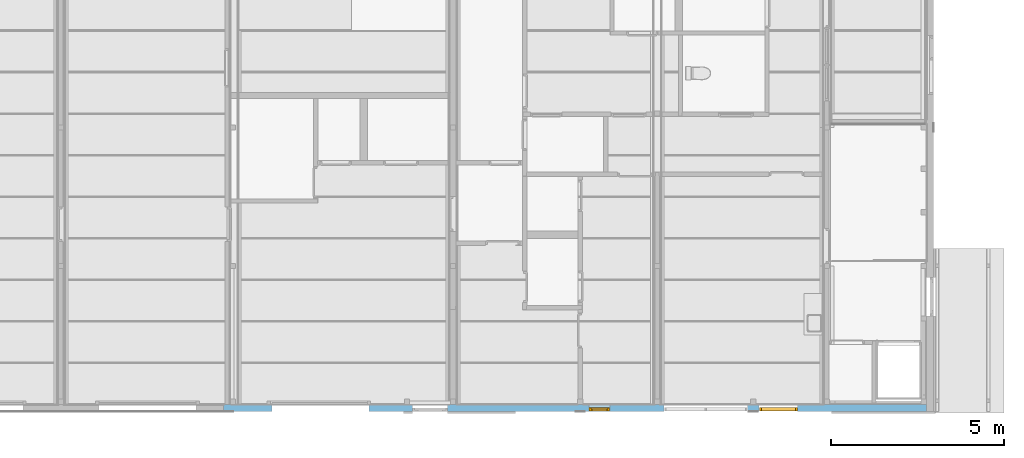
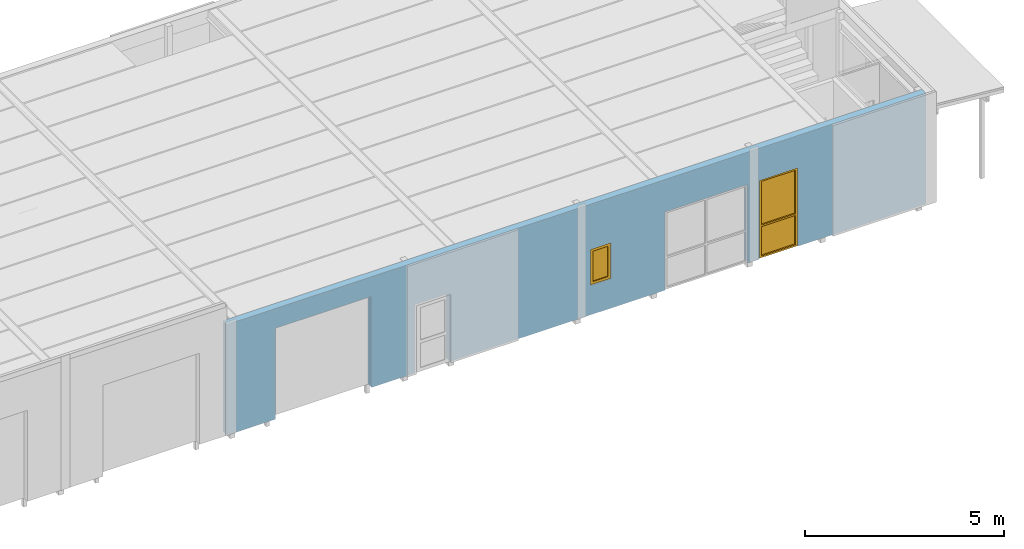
# One storey, part 24 of 45: 2 windows, 5 openings, plus 1 element that does not belong to this part.
"""IFC2X3 building model written with IfcOpenShell, lengths in millimetres."""

from ifc_helpers import new_model, entity, si_unit, converted_unit, frame, frame_2d, origin, origin_with_axes, place, context, subcontext, project, spatial, rectangle, extrude, faceted_brep, material, layer, layer_set, layer_usage, type_object, element, fill, save


model = new_model("IFC2X3")

# Units and contexts
model_context = context("Model", 3, precision=1e-05, world=origin())
plan_context = context("Plan", 3, precision=1e-05, world=origin())
body_context = subcontext(model_context, "Body", "Model", "MODEL_VIEW")
ifc_project = project(units=[si_unit("LENGTHUNIT", "METRE", prefix="MILLI"), converted_unit("PLANEANGLEUNIT", "DEGREE", entity("IfcPlaneAngleMeasure", 0.0174532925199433), si_unit("PLANEANGLEUNIT", "RADIAN"), dimensions=[0, 0, 0, 0, 0, 0, 0]), si_unit("AREAUNIT", "SQUARE_METRE"), si_unit("VOLUMEUNIT", "CUBIC_METRE")], contexts=[model_context, plan_context])

# Building, storey
building_placement = place(None, origin())
building = spatial("IfcBuilding", under=ifc_project, at=building_placement, Name="HEKF Administrasjonbygg", CompositionType="ELEMENT")
storey_placement = place(building_placement, frame((0.0, 0.0, 6500.0), z_axis=(0.0, 0.0, 1.0), x_axis=(1.0, 0.0, 0.0)))
storey = spatial("IfcBuildingStorey", under=building, at=storey_placement, Name="Plan 1", CompositionType="ELEMENT", Elevation=6500.0)

# Wall, openings, windows
ifc_material_1 = material(Name="Paroc 200")
ifc_layer = layer(ifc_material_1, 200.0)
ifc_layer_set = layer_set([ifc_layer])
ifc_layer_usage = layer_usage(ifc_layer_set, "AXIS2", "POSITIVE", 0.0)
wall_placement = place(storey_placement, frame((30000.0, -12000.0, 0.0), z_axis=(0.0, 0.0, 1.0), x_axis=(-1.0, 8.960538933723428e-17, 0.0)))
wall = element("IfcWallStandardCase", 1, at=wall_placement, inside=storey, material=ifc_layer_usage, context=body_context, shape_type="SweptSolid", body=[
    extrude(rectangle(XDim=20300.00000000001, YDim=200.0, at=frame_2d((10150.0, 100.0), x_axis=(1.0, 0.0))), origin_with_axes(), (0.0, 0.0, 1.0), 3400.0),
])
opening_1_placement = place(wall_placement, frame((3720.0, 0.0, 0.0), z_axis=(0.0, 1.0, 0.0), x_axis=(0.0, 0.0, 1.0)))
opening_1 = element("IfcOpeningElement", 2, at=opening_1_placement, cuts=wall, Name="V003", ObjectType="Opening", context=body_context, shape_type="SweptSolid", body=[
    extrude(rectangle(XDim=2410.0, YDim=1110.0, at=frame_2d((1205.0, 555.0), x_axis=(1.0, 0.0))), origin_with_axes(), (0.0, 0.0, 1.0), 200.0),
])
opening_2_placement = place(wall_placement, frame((9140.0, 0.0, 900.0), z_axis=(0.0, 1.0, 0.0), x_axis=(0.0, 0.0, 1.0)))
opening_2 = element("IfcOpeningElement", 3, at=opening_2_placement, cuts=wall, Name="V001", ObjectType="Opening", context=body_context, shape_type="SweptSolid", body=[
    extrude(rectangle(XDim=1110.0, YDim=610.0, at=frame_2d((555.0, 305.0), x_axis=(1.0, 0.0))), origin_with_axes(), (0.0, 0.0, 1.0), 200.0),
])
opening_3_placement = place(wall_placement, frame((16100.0, -1.818989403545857e-12, 0.0), z_axis=(0.0, 1.0, 0.0), x_axis=(0.0, 0.0, 1.0)))
element("IfcOpeningElement", 4, at=opening_3_placement, cuts=wall, Name="Port03", ObjectType="Opening", context=body_context, shape_type="SweptSolid", body=[
    extrude(rectangle(XDim=2799.999999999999, YDim=2800.0, at=frame_2d((1400.0, 1400.0), x_axis=(1.0, 0.0))), origin_with_axes(), (0.0, 0.0, 1.0), 200.0),
])
opening_4_placement = place(wall_placement, frame((13827.40874621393, -1.818989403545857e-12, 0.0), z_axis=(0.0, 1.0, 0.0), x_axis=(0.0, 0.0, 1.0)))
element("IfcOpeningElement", 5, at=opening_4_placement, cuts=wall, Name="D002", ObjectType="Opening", context=body_context, shape_type="SweptSolid", body=[
    extrude(rectangle(XDim=2100.0, YDim=1010.0, at=frame_2d((1050.0, 505.0), x_axis=(1.0, 0.0))), origin_with_axes(), (0.0, 0.0, 1.0), 200.0),
])
opening_5_placement = place(wall_placement, frame((5170.0, 0.0, 0.0), z_axis=(0.0, 1.0, 0.0), x_axis=(0.0, 0.0, 1.0)))
element("IfcOpeningElement", 6, at=opening_5_placement, cuts=wall, Name="V002", ObjectType="Opening", context=body_context, shape_type="SweptSolid", body=[
    extrude(rectangle(XDim=2410.0, YDim=2410.0, at=frame_2d((1205.0, 1205.0), x_axis=(1.0, 0.0))), origin_with_axes(), (0.0, 0.0, 1.0), 200.0),
])
ifc_material_2 = material()
window_style_1 = type_object("IfcWindowStyle", Name="V103", ConstructionType="NOTDEFINED", OperationType="USERDEFINED", ParameterTakesPrecedence=False, Sizeable=False)
window_1_placement = place(opening_1_placement, frame((0.0, 0.0, 0.0), z_axis=(1.0, 0.0, 0.0), x_axis=(0.0, 1.0, 0.0)))
window_1 = element("IfcWindow", 7, at=window_1_placement, inside=storey, type_object=window_style_1, material=ifc_material_2, Name="V103", OverallHeight=2410.0, OverallWidth=1110.0, context=body_context, shape_type="Brep", body=[
    faceted_brep([(1100.0, 93.99999999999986, 2400.000000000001), (1100.0, 94.0, 9.999999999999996), (1050.0, 94.0, 9.999999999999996), (1050.0, 93.99999999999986, 2400.000000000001), (1100.0, 186.0, 10.0), (1100.0, 185.9999999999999, 2400.000000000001), (1050.0, 185.9999999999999, 2400.000000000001), (1050.0, 186.0, 10.0), (1100.0, 94.0, 9.999999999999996), (1100.0, 93.99999999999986, 2400.000000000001), (1100.0, 185.9999999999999, 2400.000000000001), (1100.0, 186.0, 10.0), (1050.0, 94.0, 9.999999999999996), (1100.0, 94.0, 9.999999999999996), (1100.0, 186.0, 10.0), (1050.0, 186.0, 10.0), (1050.0, 93.99999999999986, 2400.000000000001), (1050.0, 94.0, 9.999999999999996), (1050.0, 186.0, 10.0), (1050.0, 185.9999999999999, 2400.000000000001), (1100.0, 93.99999999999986, 2400.000000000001), (1050.0, 93.99999999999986, 2400.000000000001), (1050.0, 185.9999999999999, 2400.000000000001), (1100.0, 185.9999999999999, 2400.000000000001)], [[[0, 1, 2, 3]], [[4, 5, 6, 7]], [[8, 9, 10, 11]], [[12, 13, 14, 15]], [[16, 17, 18, 19]], [[20, 21, 22, 23]]], orient=[[False], [False], [False], [False], [False], [False]]),
    faceted_brep([(60.0, 93.99999999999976, 2400.000000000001), (60.0, 93.9999999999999, 9.999999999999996), (10.0, 93.9999999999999, 9.999999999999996), (10.0, 93.99999999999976, 2400.000000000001), (60.0, 185.9999999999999, 10.0), (60.0, 185.9999999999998, 2400.000000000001), (10.0, 185.9999999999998, 2400.000000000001), (10.0, 185.9999999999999, 10.0), (60.0, 93.9999999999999, 9.999999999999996), (60.0, 93.99999999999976, 2400.000000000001), (60.0, 185.9999999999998, 2400.000000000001), (60.0, 185.9999999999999, 10.0), (10.0, 93.9999999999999, 9.999999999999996), (60.0, 93.9999999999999, 9.999999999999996), (60.0, 185.9999999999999, 10.0), (10.0, 185.9999999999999, 10.0), (10.0, 93.99999999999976, 2400.000000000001), (10.0, 93.9999999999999, 9.999999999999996), (10.0, 185.9999999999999, 10.0), (10.0, 185.9999999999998, 2400.000000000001), (60.0, 93.99999999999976, 2400.000000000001), (10.0, 93.99999999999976, 2400.000000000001), (10.0, 185.9999999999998, 2400.000000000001), (60.0, 185.9999999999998, 2400.000000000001)], [[[0, 1, 2, 3]], [[4, 5, 6, 7]], [[8, 9, 10, 11]], [[12, 13, 14, 15]], [[16, 17, 18, 19]], [[20, 21, 22, 23]]], orient=[[False], [False], [False], [False], [False], [False]]),
    faceted_brep([(1050.0, 94.0, 60.0), (1050.0, 94.0, 9.999999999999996), (60.0, 93.9999999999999, 9.999999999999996), (60.0, 93.9999999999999, 60.0), (1050.0, 186.0, 10.0), (1050.0, 186.0, 60.0), (60.0, 185.9999999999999, 60.0), (60.0, 185.9999999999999, 10.0), (1050.0, 94.0, 9.999999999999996), (1050.0, 94.0, 60.0), (1050.0, 186.0, 60.0), (1050.0, 186.0, 10.0), (60.0, 93.9999999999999, 9.999999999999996), (1050.0, 94.0, 9.999999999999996), (1050.0, 186.0, 10.0), (60.0, 185.9999999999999, 10.0), (60.0, 93.9999999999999, 60.0), (60.0, 93.9999999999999, 9.999999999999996), (60.0, 185.9999999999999, 10.0), (60.0, 185.9999999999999, 60.0), (1050.0, 94.0, 60.0), (60.0, 93.9999999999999, 60.0), (60.0, 185.9999999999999, 60.0), (1050.0, 186.0, 60.0)], [[[0, 1, 2, 3]], [[4, 5, 6, 7]], [[8, 9, 10, 11]], [[12, 13, 14, 15]], [[16, 17, 18, 19]], [[20, 21, 22, 23]]], orient=[[False], [False], [False], [False], [False], [False]]),
    faceted_brep([(1050.0, 93.99999999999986, 2400.000000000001), (1050.0, 93.99999999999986, 2350.000000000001), (60.0, 93.99999999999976, 2350.000000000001), (60.0, 93.99999999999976, 2400.000000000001), (1050.0, 185.9999999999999, 2350.000000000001), (1050.0, 185.9999999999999, 2400.000000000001), (60.0, 185.9999999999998, 2400.000000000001), (60.0, 185.9999999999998, 2350.000000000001), (1050.0, 93.99999999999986, 2350.000000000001), (1050.0, 93.99999999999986, 2400.000000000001), (1050.0, 185.9999999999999, 2400.000000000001), (1050.0, 185.9999999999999, 2350.000000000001), (60.0, 93.99999999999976, 2350.000000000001), (1050.0, 93.99999999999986, 2350.000000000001), (1050.0, 185.9999999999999, 2350.000000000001), (60.0, 185.9999999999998, 2350.000000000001), (60.0, 93.99999999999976, 2400.000000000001), (60.0, 93.99999999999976, 2350.000000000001), (60.0, 185.9999999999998, 2350.000000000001), (60.0, 185.9999999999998, 2400.000000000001), (1050.0, 93.99999999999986, 2400.000000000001), (60.0, 93.99999999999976, 2400.000000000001), (60.0, 185.9999999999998, 2400.000000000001), (1050.0, 185.9999999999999, 2400.000000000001)], [[[0, 1, 2, 3]], [[4, 5, 6, 7]], [[8, 9, 10, 11]], [[12, 13, 14, 15]], [[16, 17, 18, 19]], [[20, 21, 22, 23]]], orient=[[False], [False], [False], [False], [False], [False]]),
    faceted_brep([(1050.0, 93.99999999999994, 1010.0), (1050.0, 93.99999999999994, 960.0), (60.0, 93.99999999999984, 960.0), (60.0, 93.99999999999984, 1010.0), (1050.0, 185.9999999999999, 960.0), (1050.0, 185.9999999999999, 1010.0), (60.0, 185.9999999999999, 1010.0), (60.0, 185.9999999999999, 960.0), (1050.0, 93.99999999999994, 960.0), (1050.0, 93.99999999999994, 1010.0), (1050.0, 185.9999999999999, 1010.0), (1050.0, 185.9999999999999, 960.0), (60.0, 93.99999999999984, 960.0), (1050.0, 93.99999999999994, 960.0), (1050.0, 185.9999999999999, 960.0), (60.0, 185.9999999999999, 960.0), (60.0, 93.99999999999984, 1010.0), (60.0, 93.99999999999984, 960.0), (60.0, 185.9999999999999, 960.0), (60.0, 185.9999999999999, 1010.0), (1050.0, 93.99999999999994, 1010.0), (60.0, 93.99999999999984, 1010.0), (60.0, 185.9999999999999, 1010.0), (1050.0, 185.9999999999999, 1010.0)], [[[0, 1, 2, 3]], [[4, 5, 6, 7]], [[8, 9, 10, 11]], [[12, 13, 14, 15]], [[16, 17, 18, 19]], [[20, 21, 22, 23]]], orient=[[False], [False], [False], [False], [False], [False]]),
    faceted_brep([(1050.0, 140.0, 60.00000000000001), (60.0, 139.9999999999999, 60.00000000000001), (60.0, 139.9999999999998, 960.0), (1050.0, 139.9999999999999, 960.0), (1050.0, 141.0, 60.00000000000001), (1050.0, 140.9999999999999, 960.0), (60.0, 140.9999999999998, 960.0), (60.0, 140.9999999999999, 60.00000000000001), (1050.0, 140.0, 60.00000000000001), (1050.0, 141.0, 60.00000000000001), (60.0, 140.9999999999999, 60.00000000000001), (60.0, 139.9999999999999, 60.00000000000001), (60.0, 139.9999999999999, 60.00000000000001), (60.0, 140.9999999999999, 60.00000000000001), (60.0, 140.9999999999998, 960.0), (60.0, 139.9999999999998, 960.0), (60.0, 139.9999999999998, 960.0), (60.0, 140.9999999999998, 960.0), (1050.0, 140.9999999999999, 960.0), (1050.0, 139.9999999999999, 960.0), (1050.0, 139.9999999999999, 960.0), (1050.0, 140.9999999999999, 960.0), (1050.0, 141.0, 60.00000000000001), (1050.0, 140.0, 60.00000000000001)], [[[0, 1, 2, 3]], [[4, 5, 6, 7]], [[8, 9, 10, 11]], [[12, 13, 14, 15]], [[16, 17, 18, 19]], [[20, 21, 22, 23]]], orient=[[False], [False], [False], [False], [False], [False]]),
    faceted_brep([(1050.0, 139.9999999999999, 1010.0), (60.0, 139.9999999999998, 1010.0), (60.0, 139.9999999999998, 2350.000000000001), (1050.0, 139.9999999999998, 2350.000000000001), (1050.0, 140.9999999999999, 1010.0), (1050.0, 140.9999999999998, 2350.000000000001), (60.0, 140.9999999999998, 2350.000000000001), (60.0, 140.9999999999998, 1010.0), (1050.0, 139.9999999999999, 1010.0), (1050.0, 140.9999999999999, 1010.0), (60.0, 140.9999999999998, 1010.0), (60.0, 139.9999999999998, 1010.0), (60.0, 139.9999999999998, 1010.0), (60.0, 140.9999999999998, 1010.0), (60.0, 140.9999999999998, 2350.000000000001), (60.0, 139.9999999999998, 2350.000000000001), (60.0, 139.9999999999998, 2350.000000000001), (60.0, 140.9999999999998, 2350.000000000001), (1050.0, 140.9999999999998, 2350.000000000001), (1050.0, 139.9999999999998, 2350.000000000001), (1050.0, 139.9999999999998, 2350.000000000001), (1050.0, 140.9999999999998, 2350.000000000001), (1050.0, 140.9999999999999, 1010.0), (1050.0, 139.9999999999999, 1010.0)], [[[0, 1, 2, 3]], [[4, 5, 6, 7]], [[8, 9, 10, 11]], [[12, 13, 14, 15]], [[16, 17, 18, 19]], [[20, 21, 22, 23]]], orient=[[False], [False], [False], [False], [False], [False]]),
])
fill(opening_1, window_1)
ifc_material_3 = material()
window_style_2 = type_object("IfcWindowStyle", Name="V101", ConstructionType="NOTDEFINED", OperationType="USERDEFINED", ParameterTakesPrecedence=False, Sizeable=False)
window_2_placement = place(opening_2_placement, frame((0.0, 0.0, 0.0), z_axis=(1.0, 0.0, 0.0), x_axis=(0.0, 1.0, 0.0)))
window_2 = element("IfcWindow", 8, at=window_2_placement, inside=storey, type_object=window_style_2, material=ifc_material_3, Name="V101", OverallHeight=1110.0, OverallWidth=610.0, context=body_context, shape_type="Brep", body=[
    faceted_brep([(10.0, 186.0, 1100.0), (10.0, 185.9999999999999, 9.999999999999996), (60.0, 185.9999999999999, 9.999999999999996), (60.0, 186.0, 1100.0), (10.0, 94.00000000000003, 10.0), (10.0, 94.0000000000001, 1100.0), (60.0, 94.0000000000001, 1100.0), (60.0, 94.00000000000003, 10.0), (10.0, 185.9999999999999, 9.999999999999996), (10.0, 186.0, 1100.0), (10.0, 94.0000000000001, 1100.0), (10.0, 94.00000000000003, 10.0), (60.0, 185.9999999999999, 9.999999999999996), (10.0, 185.9999999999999, 9.999999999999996), (10.0, 94.00000000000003, 10.0), (60.0, 94.00000000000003, 10.0), (60.0, 186.0, 1100.0), (60.0, 185.9999999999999, 9.999999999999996), (60.0, 94.00000000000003, 10.0), (60.0, 94.0000000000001, 1100.0), (10.0, 186.0, 1100.0), (60.0, 186.0, 1100.0), (60.0, 94.0000000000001, 1100.0), (10.0, 94.0000000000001, 1100.0)], [[[0, 1, 2, 3]], [[4, 5, 6, 7]], [[8, 9, 10, 11]], [[12, 13, 14, 15]], [[16, 17, 18, 19]], [[20, 21, 22, 23]]], orient=[[False], [False], [False], [False], [False], [False]]),
    faceted_brep([(549.9999999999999, 186.0, 1100.0), (549.9999999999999, 185.9999999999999, 9.999999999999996), (599.9999999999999, 185.9999999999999, 9.999999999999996), (599.9999999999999, 186.0, 1100.0), (549.9999999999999, 94.00000000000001, 10.0), (549.9999999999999, 94.00000000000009, 1100.0), (599.9999999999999, 94.00000000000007, 1100.0), (599.9999999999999, 94.0, 10.0), (549.9999999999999, 185.9999999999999, 9.999999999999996), (549.9999999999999, 186.0, 1100.0), (549.9999999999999, 94.00000000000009, 1100.0), (549.9999999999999, 94.00000000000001, 10.0), (599.9999999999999, 185.9999999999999, 9.999999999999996), (549.9999999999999, 185.9999999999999, 9.999999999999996), (549.9999999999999, 94.00000000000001, 10.0), (599.9999999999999, 94.0, 10.0), (599.9999999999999, 186.0, 1100.0), (599.9999999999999, 185.9999999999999, 9.999999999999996), (599.9999999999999, 94.0, 10.0), (599.9999999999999, 94.00000000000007, 1100.0), (549.9999999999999, 186.0, 1100.0), (599.9999999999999, 186.0, 1100.0), (599.9999999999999, 94.00000000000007, 1100.0), (549.9999999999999, 94.00000000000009, 1100.0)], [[[0, 1, 2, 3]], [[4, 5, 6, 7]], [[8, 9, 10, 11]], [[12, 13, 14, 15]], [[16, 17, 18, 19]], [[20, 21, 22, 23]]], orient=[[False], [False], [False], [False], [False], [False]]),
    faceted_brep([(60.0, 185.9999999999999, 60.0), (60.0, 185.9999999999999, 9.999999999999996), (550.0, 185.9999999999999, 9.999999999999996), (550.0, 185.9999999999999, 60.0), (60.0, 94.00000000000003, 10.0), (60.0, 94.00000000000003, 60.0), (550.0, 94.00000000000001, 60.0), (550.0, 94.00000000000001, 10.0), (60.0, 185.9999999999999, 9.999999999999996), (60.0, 185.9999999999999, 60.0), (60.0, 94.00000000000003, 60.0), (60.0, 94.00000000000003, 10.0), (550.0, 185.9999999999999, 9.999999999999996), (60.0, 185.9999999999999, 9.999999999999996), (60.0, 94.00000000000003, 10.0), (550.0, 94.00000000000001, 10.0), (550.0, 185.9999999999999, 60.0), (550.0, 185.9999999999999, 9.999999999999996), (550.0, 94.00000000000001, 10.0), (550.0, 94.00000000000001, 60.0), (60.0, 185.9999999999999, 60.0), (550.0, 185.9999999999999, 60.0), (550.0, 94.00000000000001, 60.0), (60.0, 94.00000000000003, 60.0)], [[[0, 1, 2, 3]], [[4, 5, 6, 7]], [[8, 9, 10, 11]], [[12, 13, 14, 15]], [[16, 17, 18, 19]], [[20, 21, 22, 23]]], orient=[[False], [False], [False], [False], [False], [False]]),
    faceted_brep([(60.0, 186.0, 1100.0), (60.0, 186.0, 1050.0), (550.0, 186.0, 1050.0), (550.0, 186.0, 1100.0), (60.0, 94.00000000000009, 1050.0), (60.0, 94.00000000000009, 1100.0), (550.0, 94.00000000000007, 1100.0), (550.0, 94.00000000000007, 1050.0), (60.0, 186.0, 1050.0), (60.0, 186.0, 1100.0), (60.0, 94.00000000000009, 1100.0), (60.0, 94.00000000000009, 1050.0), (550.0, 186.0, 1050.0), (60.0, 186.0, 1050.0), (60.0, 94.00000000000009, 1050.0), (550.0, 94.00000000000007, 1050.0), (550.0, 186.0, 1100.0), (550.0, 186.0, 1050.0), (550.0, 94.00000000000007, 1050.0), (550.0, 94.00000000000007, 1100.0), (60.0, 186.0, 1100.0), (550.0, 186.0, 1100.0), (550.0, 94.00000000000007, 1100.0), (60.0, 94.00000000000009, 1100.0)], [[[0, 1, 2, 3]], [[4, 5, 6, 7]], [[8, 9, 10, 11]], [[12, 13, 14, 15]], [[16, 17, 18, 19]], [[20, 21, 22, 23]]], orient=[[False], [False], [False], [False], [False], [False]]),
    faceted_brep([(40.00000000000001, 186.0, 1070.0), (40.00000000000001, 186.0, 40.00000000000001), (90.0, 186.0, 40.00000000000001), (90.0, 186.0, 1070.0), (40.00000000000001, 136.0, 40.00000000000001), (40.00000000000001, 136.0000000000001, 1070.0), (90.0, 136.0000000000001, 1070.0), (90.0, 136.0, 40.00000000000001), (40.00000000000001, 186.0, 40.00000000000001), (40.00000000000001, 186.0, 1070.0), (40.00000000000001, 136.0000000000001, 1070.0), (40.00000000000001, 136.0, 40.00000000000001), (90.0, 186.0, 40.00000000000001), (40.00000000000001, 186.0, 40.00000000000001), (40.00000000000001, 136.0, 40.00000000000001), (90.0, 136.0, 40.00000000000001), (90.0, 186.0, 1070.0), (90.0, 186.0, 40.00000000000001), (90.0, 136.0, 40.00000000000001), (90.0, 136.0000000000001, 1070.0), (40.00000000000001, 186.0, 1070.0), (90.0, 186.0, 1070.0), (90.0, 136.0000000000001, 1070.0), (40.00000000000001, 136.0000000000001, 1070.0)], [[[0, 1, 2, 3]], [[4, 5, 6, 7]], [[8, 9, 10, 11]], [[12, 13, 14, 15]], [[16, 17, 18, 19]], [[20, 21, 22, 23]]], orient=[[False], [False], [False], [False], [False], [False]]),
    faceted_brep([(520.0, 186.0, 1070.0), (520.0, 185.9999999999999, 40.00000000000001), (570.0, 185.9999999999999, 40.00000000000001), (570.0, 186.0, 1070.0), (520.0, 136.0, 40.00000000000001), (520.0, 136.0000000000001, 1070.0), (570.0, 136.0000000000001, 1070.0), (570.0, 136.0, 40.00000000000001), (520.0, 185.9999999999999, 40.00000000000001), (520.0, 186.0, 1070.0), (520.0, 136.0000000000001, 1070.0), (520.0, 136.0, 40.00000000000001), (570.0, 185.9999999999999, 40.00000000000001), (520.0, 185.9999999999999, 40.00000000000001), (520.0, 136.0, 40.00000000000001), (570.0, 136.0, 40.00000000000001), (570.0, 186.0, 1070.0), (570.0, 185.9999999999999, 40.00000000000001), (570.0, 136.0, 40.00000000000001), (570.0, 136.0000000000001, 1070.0), (520.0, 186.0, 1070.0), (570.0, 186.0, 1070.0), (570.0, 136.0000000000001, 1070.0), (520.0, 136.0000000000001, 1070.0)], [[[0, 1, 2, 3]], [[4, 5, 6, 7]], [[8, 9, 10, 11]], [[12, 13, 14, 15]], [[16, 17, 18, 19]], [[20, 21, 22, 23]]], orient=[[False], [False], [False], [False], [False], [False]]),
    faceted_brep([(90.00000000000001, 186.0, 90.0), (90.00000000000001, 186.0, 40.00000000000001), (520.0, 185.9999999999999, 40.00000000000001), (520.0, 185.9999999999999, 90.0), (90.00000000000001, 136.0, 40.00000000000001), (90.00000000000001, 136.0, 90.0), (520.0, 136.0, 90.0), (520.0, 136.0, 40.00000000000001), (90.00000000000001, 186.0, 40.00000000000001), (90.00000000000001, 186.0, 90.0), (90.00000000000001, 136.0, 90.0), (90.00000000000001, 136.0, 40.00000000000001), (520.0, 185.9999999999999, 40.00000000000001), (90.00000000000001, 186.0, 40.00000000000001), (90.00000000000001, 136.0, 40.00000000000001), (520.0, 136.0, 40.00000000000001), (520.0, 185.9999999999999, 90.0), (520.0, 185.9999999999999, 40.00000000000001), (520.0, 136.0, 40.00000000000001), (520.0, 136.0, 90.0), (90.00000000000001, 186.0, 90.0), (520.0, 185.9999999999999, 90.0), (520.0, 136.0, 90.0), (90.00000000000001, 136.0, 90.0)], [[[0, 1, 2, 3]], [[4, 5, 6, 7]], [[8, 9, 10, 11]], [[12, 13, 14, 15]], [[16, 17, 18, 19]], [[20, 21, 22, 23]]], orient=[[False], [False], [False], [False], [False], [False]]),
    faceted_brep([(90.00000000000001, 186.0, 1070.0), (90.00000000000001, 186.0, 1020.0), (520.0, 186.0, 1020.0), (520.0, 186.0, 1070.0), (90.00000000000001, 136.0000000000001, 1020.0), (90.00000000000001, 136.0000000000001, 1070.0), (520.0, 136.0000000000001, 1070.0), (520.0, 136.0000000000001, 1020.0), (90.00000000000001, 186.0, 1020.0), (90.00000000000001, 186.0, 1070.0), (90.00000000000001, 136.0000000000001, 1070.0), (90.00000000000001, 136.0000000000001, 1020.0), (520.0, 186.0, 1020.0), (90.00000000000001, 186.0, 1020.0), (90.00000000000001, 136.0000000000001, 1020.0), (520.0, 136.0000000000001, 1020.0), (520.0, 186.0, 1070.0), (520.0, 186.0, 1020.0), (520.0, 136.0000000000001, 1020.0), (520.0, 136.0000000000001, 1070.0), (90.00000000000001, 186.0, 1070.0), (520.0, 186.0, 1070.0), (520.0, 136.0000000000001, 1070.0), (90.00000000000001, 136.0000000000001, 1070.0)], [[[0, 1, 2, 3]], [[4, 5, 6, 7]], [[8, 9, 10, 11]], [[12, 13, 14, 15]], [[16, 17, 18, 19]], [[20, 21, 22, 23]]], orient=[[False], [False], [False], [False], [False], [False]]),
    faceted_brep([(90.00000000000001, 161.0, 90.00000000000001), (520.0, 161.0, 90.00000000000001), (520.0, 161.0000000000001, 1020.0), (90.00000000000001, 161.0000000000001, 1020.0), (90.00000000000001, 160.0, 90.00000000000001), (90.00000000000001, 160.0000000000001, 1020.0), (520.0, 160.0000000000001, 1020.0), (520.0, 160.0, 90.00000000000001), (90.00000000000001, 161.0, 90.00000000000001), (90.00000000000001, 160.0, 90.00000000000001), (520.0, 160.0, 90.00000000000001), (520.0, 161.0, 90.00000000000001), (520.0, 161.0, 90.00000000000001), (520.0, 160.0, 90.00000000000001), (520.0, 160.0000000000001, 1020.0), (520.0, 161.0000000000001, 1020.0), (520.0, 161.0000000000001, 1020.0), (520.0, 160.0000000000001, 1020.0), (90.00000000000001, 160.0000000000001, 1020.0), (90.00000000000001, 161.0000000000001, 1020.0), (90.00000000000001, 161.0000000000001, 1020.0), (90.00000000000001, 160.0000000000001, 1020.0), (90.00000000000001, 160.0, 90.00000000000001), (90.00000000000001, 161.0, 90.00000000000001)], [[[0, 1, 2, 3]], [[4, 5, 6, 7]], [[8, 9, 10, 11]], [[12, 13, 14, 15]], [[16, 17, 18, 19]], [[20, 21, 22, 23]]], orient=[[False], [False], [False], [False], [False], [False]]),
])
fill(opening_2, window_2)

save(model, "model.ifc")
